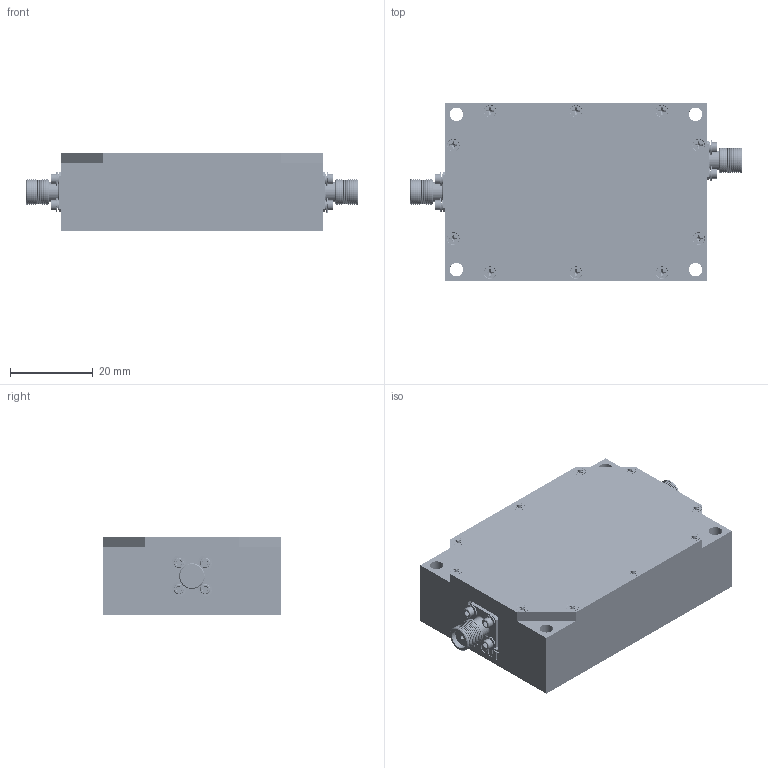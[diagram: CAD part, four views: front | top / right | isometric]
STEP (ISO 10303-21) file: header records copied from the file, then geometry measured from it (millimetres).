
FILE_DESCRIPTION (( 'STEP AP214' ), '1' );
FILE_NAME ('HILNA LS.STEP', '2025-03-31T13:03:08', ( '' ), ( '' ), 'SwSTEP 2.0', 'SolidWorks 2021', '' );
FILE_SCHEMA (( 'AUTOMOTIVE_DESIGN' ));
Length unit declared in the file: inch
Products named in the file (10): A6018-1000 - GENERIC MODEL.STEP; 90945A700_90945A700.STEP; A6018-1100.STEP; HILNA LS; 92196A054_92196A054.STEP; 92146A510_92146A510.STEP; SCREW STACK UP 0-80 x .188 long.STEP; A6018-1200.STEP; 19131438-EX_Standard.STEP; 91771A054_91771A054.STEP
Assembly tree (26 placements, depth 4):
  HILNA LS
    A6018-1000 - GENERIC MODEL.STEP
      SCREW STACK UP 0-80 x .188 long.STEP  x8
        92196A054_92196A054.STEP
        92146A510_92146A510.STEP
        90945A700_90945A700.STEP
      A6018-1100.STEP
      A6018-1200.STEP
      19131438-EX_Standard.STEP  x2
      91771A054_91771A054.STEP  x10
Bounding box: 80.43 x 43.18 x 19.07 mm (x, y, z)
Volume: 20788.4 mm3; surface area: 21395.9 mm2
Topology: 40 solids, 40 shells, 2778 faces, 7109 edges, 4470 vertices
Faces by surface type: cylinder 1241, cone 803, plane 562, bspline 96, torus 76
Entity records: 33558 total; most frequent: CARTESIAN_POINT 12026, ORIENTED_EDGE 3974, DIRECTION 3619, EDGE_CURVE 1987, AXIS2_PLACEMENT_3D 1285, VERTEX_POINT 1278, LINE 1049, VECTOR 1049
